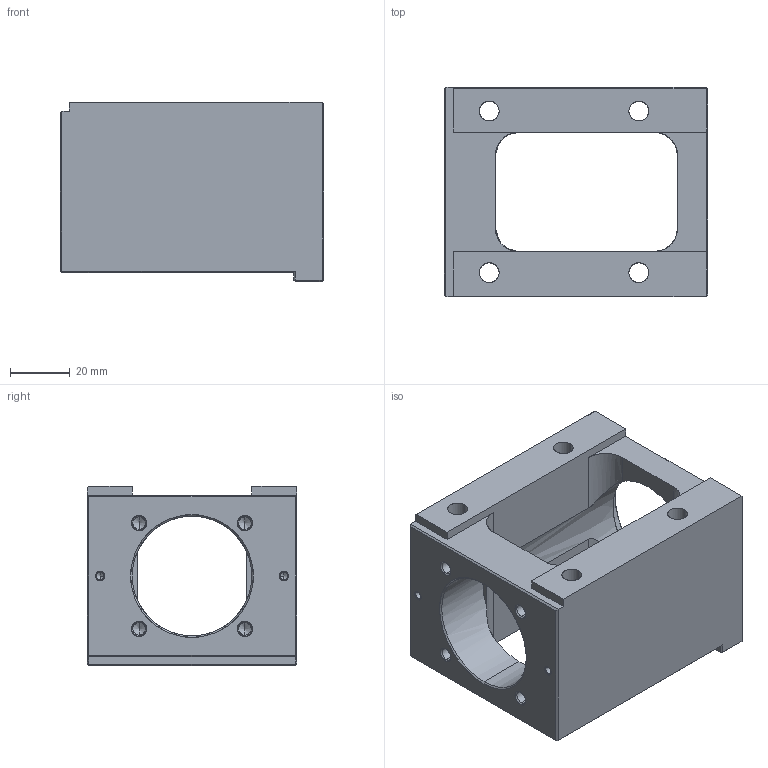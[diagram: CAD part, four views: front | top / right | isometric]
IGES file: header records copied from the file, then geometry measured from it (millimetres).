
Start section: SolidWorks IGES file using analytic representation for surfaces
Global section: file name: C:\Users\117\Desktop\1061208網站3D圖檔問題處理\傳動座\外露型\MBH\MBH15-D.IGS,15HSolidWorks; native system: 2017; preprocessor: SolidWorks 2017; author: 117; date: 171228.143013; units: millimetre
Bounding box: 88 x 70 x 60 mm (x, y, z)
Surface area: 42979.6 mm2 (no closed solid volume)
Topology: 0 solids, 0 shells, 176 faces, 2198 edges, 2170 vertices
Faces by surface type: revolution 126, bspline 50
